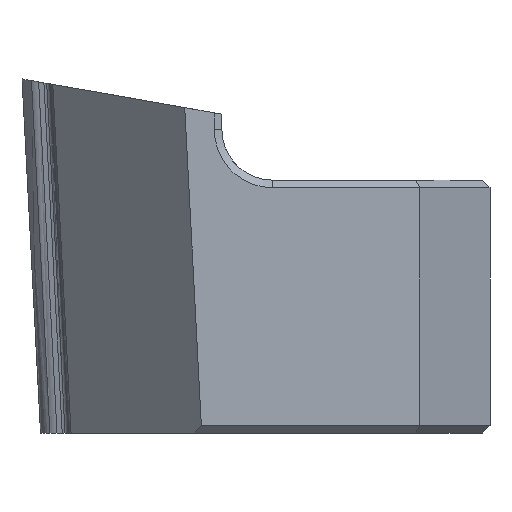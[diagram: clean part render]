
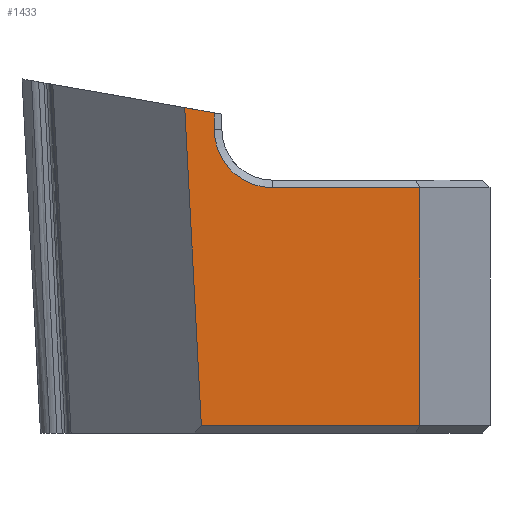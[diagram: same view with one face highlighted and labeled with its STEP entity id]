
A CAD part, left-side view. The second image highlights one B-rep face of the part: STEP entity #1433.
In plain terms, the highlighted planar face has unit normal (-1, 0, 0).
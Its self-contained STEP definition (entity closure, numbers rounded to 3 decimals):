
#2 = VECTOR ( 'NONE', #1451, 1000. ) ;
#40 = CARTESIAN_POINT ( 'NONE',  ( -6.55, -5.206, -6.7 ) ) ;
#49 = DIRECTION ( 'NONE',  ( 0., 0., 1. ) ) ;
#179 = VERTEX_POINT ( 'NONE', #954 ) ;
#192 = CARTESIAN_POINT ( 'NONE',  ( -6.55, -5.266, 5.866 ) ) ;
#231 = CARTESIAN_POINT ( 'NONE',  ( -6.55, -14.566, -6.7 ) ) ;
#282 = CARTESIAN_POINT ( 'NONE',  ( -6.55, -14.566, 7. ) ) ;
#326 = ORIENTED_EDGE ( 'NONE', *, *, #937, .T. ) ;
#345 = DIRECTION ( 'NONE',  ( 0., 0., -1. ) ) ;
#354 = CARTESIAN_POINT ( 'NONE',  ( -6.55, -5.206, 7. ) ) ;
#415 = EDGE_CURVE ( 'NONE', #179, #1432, #1084, .T. ) ;
#431 = CARTESIAN_POINT ( 'NONE',  ( -6.55, -6.734, 5.607 ) ) ;
#477 = CARTESIAN_POINT ( 'NONE',  ( -6.55, -6.434, 5.66 ) ) ;
#478 = ORIENTED_EDGE ( 'NONE', *, *, #1416, .T. ) ;
#491 = EDGE_CURVE ( 'NONE', #1142, #1476, #797, .T. ) ;
#493 = DIRECTION ( 'NONE',  ( 0., 1., 0. ) ) ;
#566 = CARTESIAN_POINT ( 'NONE',  ( -6.55, -6.434, 7. ) ) ;
#616 = DIRECTION ( 'NONE',  ( 0., -0.052, -0.999 ) ) ;
#633 = VERTEX_POINT ( 'NONE', #1400 ) ;
#644 = CARTESIAN_POINT ( 'NONE',  ( -6.55, -8.734, 2.7 ) ) ;
#649 = AXIS2_PLACEMENT_3D ( 'NONE', #986, #1510, #345 ) ;
#755 = VECTOR ( 'NONE', #807, 1000. ) ;
#763 = EDGE_CURVE ( 'NONE', #633, #1476, #1573, .T. ) ;
#797 = LINE ( 'NONE', #282, #2 ) ;
#805 = ORIENTED_EDGE ( 'NONE', *, *, #415, .T. ) ;
#807 = DIRECTION ( 'NONE',  ( 0., -1., 0. ) ) ;
#868 = DIRECTION ( 'NONE',  ( 1., 0., 0. ) ) ;
#937 = EDGE_CURVE ( 'NONE', #1142, #1542, #1539, .T. ) ;
#949 = DIRECTION ( 'NONE',  ( 0., -0.985, -0.174 ) ) ;
#954 = CARTESIAN_POINT ( 'NONE',  ( -6.55, -6.434, 5. ) ) ;
#966 = EDGE_CURVE ( 'NONE', #1671, #633, #1651, .T. ) ;
#986 = CARTESIAN_POINT ( 'NONE',  ( -6.55, -8.734, 5. ) ) ;
#992 = FACE_OUTER_BOUND ( 'NONE', #1393, .T. ) ;
#1000 = VECTOR ( 'NONE', #949, 1000. ) ;
#1010 = CARTESIAN_POINT ( 'NONE',  ( -6.55, -5.206, 2.7 ) ) ;
#1084 = LINE ( 'NONE', #566, #1165 ) ;
#1133 = CARTESIAN_POINT ( 'NONE',  ( -6.55, -5.206, 7. ) ) ;
#1142 = VERTEX_POINT ( 'NONE', #1480 ) ;
#1148 = ORIENTED_EDGE ( 'NONE', *, *, #491, .F. ) ;
#1165 = VECTOR ( 'NONE', #49, 1000. ) ;
#1271 = ORIENTED_EDGE ( 'NONE', *, *, #763, .T. ) ;
#1272 = CIRCLE ( 'NONE', #649, 2.3 ) ;
#1303 = VECTOR ( 'NONE', #493, 1000. ) ;
#1390 = DIRECTION ( 'NONE',  ( 0., 0., -1. ) ) ;
#1391 = VECTOR ( 'NONE', #616, 1000. ) ;
#1393 = EDGE_LOOP ( 'NONE', ( #478, #805, #1681, #1537, #1271, #1148, #326 ) ) ;
#1400 = CARTESIAN_POINT ( 'NONE',  ( -6.55, -5.924, -6.7 ) ) ;
#1416 = EDGE_CURVE ( 'NONE', #1542, #179, #1272, .T. ) ;
#1432 = VERTEX_POINT ( 'NONE', #477 ) ;
#1433 = ADVANCED_FACE ( 'NONE', ( #992 ), #1520, .F. ) ;
#1451 = DIRECTION ( 'NONE',  ( 0., 0., -1. ) ) ;
#1476 = VERTEX_POINT ( 'NONE', #231 ) ;
#1480 = CARTESIAN_POINT ( 'NONE',  ( -6.55, -14.566, 2.7 ) ) ;
#1510 = DIRECTION ( 'NONE',  ( 1., 0., 0. ) ) ;
#1520 = PLANE ( 'NONE',  #1551 ) ;
#1537 = ORIENTED_EDGE ( 'NONE', *, *, #966, .T. ) ;
#1539 = LINE ( 'NONE', #1010, #1303 ) ;
#1542 = VERTEX_POINT ( 'NONE', #644 ) ;
#1551 = AXIS2_PLACEMENT_3D ( 'NONE', #354, #868, #1390 ) ;
#1560 = EDGE_CURVE ( 'NONE', #1671, #1432, #1601, .T. ) ;
#1573 = LINE ( 'NONE', #40, #755 ) ;
#1601 = LINE ( 'NONE', #431, #1000 ) ;
#1651 = LINE ( 'NONE', #1133, #1391 ) ;
#1671 = VERTEX_POINT ( 'NONE', #192 ) ;
#1681 = ORIENTED_EDGE ( 'NONE', *, *, #1560, .F. ) ;
